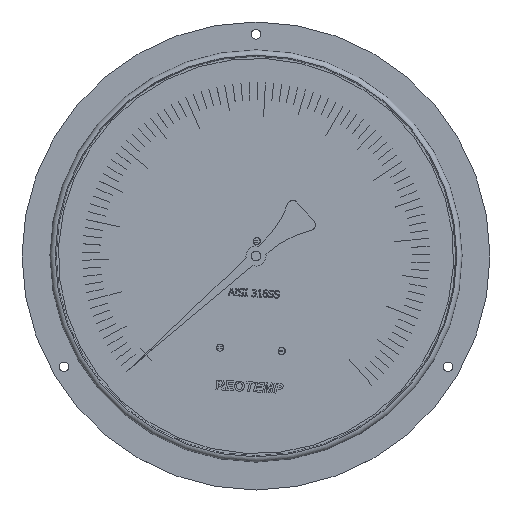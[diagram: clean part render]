
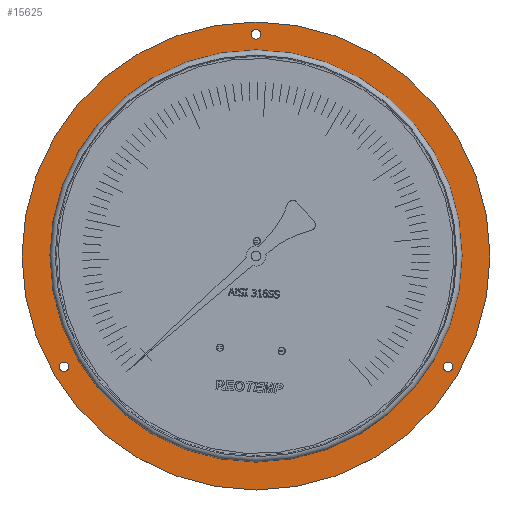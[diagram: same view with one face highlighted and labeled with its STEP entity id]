
A CAD part, top view. The second image highlights one B-rep face of the part: STEP entity #15625.
In plain terms, the highlighted planar face has unit normal (0, 0, 1).
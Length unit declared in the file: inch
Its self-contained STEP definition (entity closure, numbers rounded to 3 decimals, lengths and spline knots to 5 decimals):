
#97=FACE_BOUND('',#2129,.T.);
#98=FACE_BOUND('',#2130,.T.);
#99=FACE_BOUND('',#2131,.T.);
#100=FACE_BOUND('',#2132,.T.);
#427=PLANE('',#16763);
#1209=FACE_OUTER_BOUND('',#2128,.T.);
#2128=EDGE_LOOP('',(#11382));
#2129=EDGE_LOOP('',(#11383));
#2130=EDGE_LOOP('',(#11384));
#2131=EDGE_LOOP('',(#11385));
#2132=EDGE_LOOP('',(#11386));
#3146=CIRCLE('',#16745,0.115);
#3148=CIRCLE('',#16748,0.115);
#3150=CIRCLE('',#16751,0.115);
#3155=CIRCLE('',#16759,4.94);
#3157=CIRCLE('',#16762,5.61);
#7349=VERTEX_POINT('',#27635);
#7351=VERTEX_POINT('',#27641);
#7353=VERTEX_POINT('',#27647);
#7358=VERTEX_POINT('',#27662);
#7360=VERTEX_POINT('',#27668);
#8915=EDGE_CURVE('',#7349,#7349,#3146,.T.);
#8918=EDGE_CURVE('',#7351,#7351,#3148,.T.);
#8921=EDGE_CURVE('',#7353,#7353,#3150,.T.);
#8929=EDGE_CURVE('',#7358,#7358,#3155,.T.);
#8932=EDGE_CURVE('',#7360,#7360,#3157,.T.);
#11382=ORIENTED_EDGE('',*,*,#8932,.T.);
#11383=ORIENTED_EDGE('',*,*,#8915,.T.);
#11384=ORIENTED_EDGE('',*,*,#8918,.T.);
#11385=ORIENTED_EDGE('',*,*,#8921,.T.);
#11386=ORIENTED_EDGE('',*,*,#8929,.T.);
#15625=ADVANCED_FACE('',(#1209,#97,#98,#99,#100),#427,.T.);
#16745=AXIS2_PLACEMENT_3D('',#27636,#17895,#17896);
#16748=AXIS2_PLACEMENT_3D('',#27642,#17902,#17903);
#16751=AXIS2_PLACEMENT_3D('',#27648,#17909,#17910);
#16759=AXIS2_PLACEMENT_3D('',#27664,#17928,#17929);
#16762=AXIS2_PLACEMENT_3D('',#27670,#17935,#17936);
#16763=AXIS2_PLACEMENT_3D('',#27671,#17937,#17938);
#17895=DIRECTION('center_axis',(0.,0.,-1.));
#17896=DIRECTION('ref_axis',(1.,0.,0.));
#17902=DIRECTION('center_axis',(0.,0.,-1.));
#17903=DIRECTION('ref_axis',(1.,0.,0.));
#17909=DIRECTION('center_axis',(0.,0.,-1.));
#17910=DIRECTION('ref_axis',(1.,0.,0.));
#17928=DIRECTION('center_axis',(0.,0.,-1.));
#17929=DIRECTION('ref_axis',(-1.,0.,0.));
#17935=DIRECTION('center_axis',(0.,0.,1.));
#17936=DIRECTION('ref_axis',(1.,0.,0.));
#17937=DIRECTION('center_axis',(0.,0.,1.));
#17938=DIRECTION('ref_axis',(1.,0.,0.));
#27635=CARTESIAN_POINT('',(-4.71793,-2.6575,0.));
#27636=CARTESIAN_POINT('Origin',(-4.60293,-2.6575,0.));
#27641=CARTESIAN_POINT('',(4.48793,-2.6575,0.));
#27642=CARTESIAN_POINT('Origin',(4.60293,-2.6575,0.));
#27647=CARTESIAN_POINT('',(-0.115,5.315,0.));
#27648=CARTESIAN_POINT('Origin',(0.,5.315,0.));
#27662=CARTESIAN_POINT('',(4.94,0.,0.));
#27664=CARTESIAN_POINT('Origin',(0.,0.,0.));
#27668=CARTESIAN_POINT('',(-5.61,0.,0.));
#27670=CARTESIAN_POINT('Origin',(0.,0.,0.));
#27671=CARTESIAN_POINT('Origin',(0.,0.,0.));
